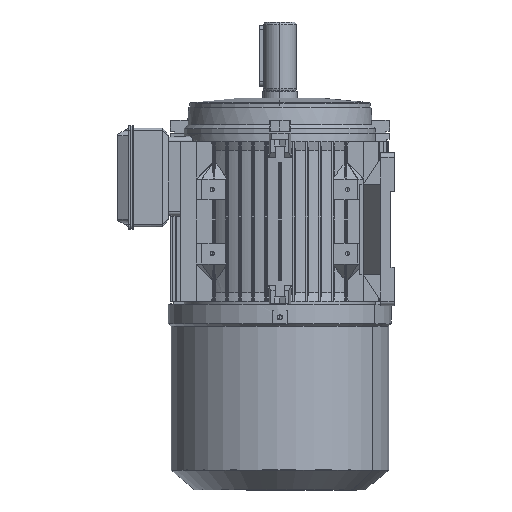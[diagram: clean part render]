
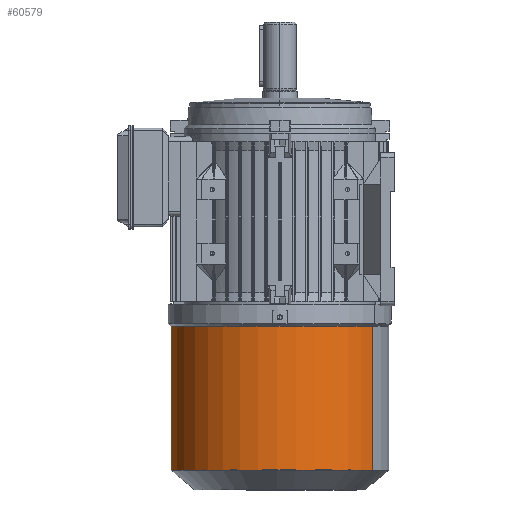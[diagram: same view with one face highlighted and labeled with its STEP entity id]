
A CAD part, front view. The second image highlights one B-rep face of the part: STEP entity #60579.
In plain terms, the highlighted cylindrical face has radius 125.5 mm (diameter 251 mm), a partial arc.
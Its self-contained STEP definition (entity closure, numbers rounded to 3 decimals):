
#29098 = ORIENTED_EDGE ( 'NONE', *, *, #60407, .F. ) ;
#29099 = ORIENTED_EDGE ( 'NONE', *, *, #60411, .T. ) ;
#29101 = ORIENTED_EDGE ( 'NONE', *, *, #60409, .T. ) ;
#29103 = ORIENTED_EDGE ( 'NONE', *, *, #60408, .F. ) ;
#41991 = EDGE_LOOP ( 'NONE', ( #29099, #29101, #29103, #29098 ) ) ;
#44596 = VERTEX_POINT ( 'NONE', #50237 ) ;
#44597 = VERTEX_POINT ( 'NONE', #50238 ) ;
#44614 = VERTEX_POINT ( 'NONE', #50251 ) ;
#44615 = VERTEX_POINT ( 'NONE', #50252 ) ;
#47933 = CIRCLE ( 'NONE', #58106, 125.5 ) ;
#47934 = CIRCLE ( 'NONE', #58109, 125.5 ) ;
#50237 = CARTESIAN_POINT ( 'NONE',  ( 24.946, 0., 125.5 ) ) ;
#50238 = CARTESIAN_POINT ( 'NONE',  ( 24.946, 0., -125.5 ) ) ;
#50251 = CARTESIAN_POINT ( 'NONE',  ( 191.2, 0., 125.5 ) ) ;
#50252 = CARTESIAN_POINT ( 'NONE',  ( 191.2, 0., -125.5 ) ) ;
#57674 = CARTESIAN_POINT ( 'NONE',  ( 24.946, 0., 0. ) ) ;
#57774 = LINE ( 'NONE', #57775, #58107 ) ;
#57775 = CARTESIAN_POINT ( 'NONE',  ( 0., 0., 125.5 ) ) ;
#57776 = DIRECTION ( 'NONE',  ( -1., 0., 0. ) ) ;
#57777 = DIRECTION ( 'NONE',  ( -1., 0., 0. ) ) ;
#57778 = DIRECTION ( 'NONE',  ( 0., 0., 1. ) ) ;
#57779 = CARTESIAN_POINT ( 'NONE',  ( 191.2, 0., 0. ) ) ;
#57780 = LINE ( 'NONE', #57781, #58108 ) ;
#57781 = CARTESIAN_POINT ( 'NONE',  ( 0., 0., -125.5 ) ) ;
#57782 = DIRECTION ( 'NONE',  ( -1., 0., 0. ) ) ;
#57786 = DIRECTION ( 'NONE',  ( -1., 0., 0. ) ) ;
#57787 = DIRECTION ( 'NONE',  ( 0., 0., 1. ) ) ;
#58106 = AXIS2_PLACEMENT_3D ( 'NONE', #57674, #57777, #57778 ) ;
#58107 = VECTOR ( 'NONE', #57776, 1000. ) ;
#58108 = VECTOR ( 'NONE', #57782, 1000. ) ;
#58109 = AXIS2_PLACEMENT_3D ( 'NONE', #57779, #57786, #57787 ) ;
#58286 = FACE_OUTER_BOUND ( 'NONE', #41991, .T. ) ;
#58288 = AXIS2_PLACEMENT_3D ( 'NONE', #59549, #59551, #59552 ) ;
#58289 = CYLINDRICAL_SURFACE ( 'NONE', #58288, 125.5 ) ;
#59549 = CARTESIAN_POINT ( 'NONE',  ( 0., 0., 0. ) ) ;
#59551 = DIRECTION ( 'NONE',  ( -1., 0., 0. ) ) ;
#59552 = DIRECTION ( 'NONE',  ( 0., 0., 1. ) ) ;
#60407 = EDGE_CURVE ( 'NONE', #44614, #44596, #57774, .T. ) ;
#60408 = EDGE_CURVE ( 'NONE', #44596, #44597, #47933, .T. ) ;
#60409 = EDGE_CURVE ( 'NONE', #44615, #44597, #57780, .T. ) ;
#60411 = EDGE_CURVE ( 'NONE', #44614, #44615, #47934, .T. ) ;
#60579 = ADVANCED_FACE ( 'NONE', ( #58286 ), #58289, .T. ) ;
